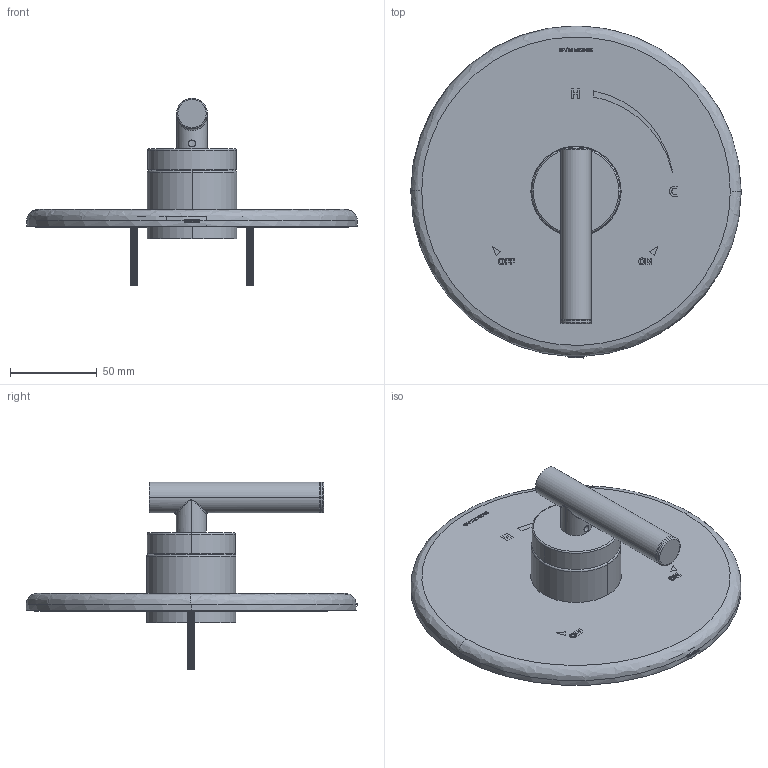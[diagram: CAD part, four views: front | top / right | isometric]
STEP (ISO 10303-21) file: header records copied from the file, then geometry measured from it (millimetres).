
FILE_DESCRIPTION (( 'STEP AP214' ), '1' );
FILE_NAME ('3590BTRM.STEP', '2025-01-15T07:38:27', ( '' ), ( '' ), 'SwSTEP 2.0', 'SolidWorks 2023', '' );
FILE_SCHEMA (( 'AUTOMOTIVE_DESIGN' ));
Length unit declared in the file: inch
Products named in the file (1): 3590BTRM
Bounding box: 190.5 x 191.39 x 108.27 mm (x, y, z)
Surface area: 130917.1 mm2 (no closed solid volume)
Topology: 0 solids, 94 shells, 1088 faces, 3001 edges, 2006 vertices
Faces by surface type: cylinder 589, plane 274, cone 208, bspline 11, torus 6
Entity records: 45383 total; most frequent: CARTESIAN_POINT 18632, ORIENTED_EDGE 5499, DIRECTION 5262, EDGE_CURVE 3001, VERTEX_POINT 2006, AXIS2_PLACEMENT_3D 1929, VECTOR 1404, LINE 1404
